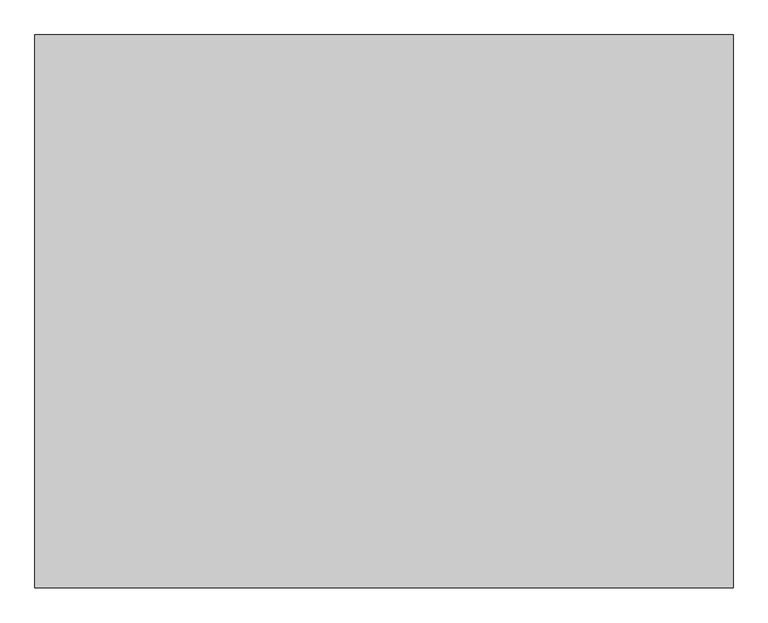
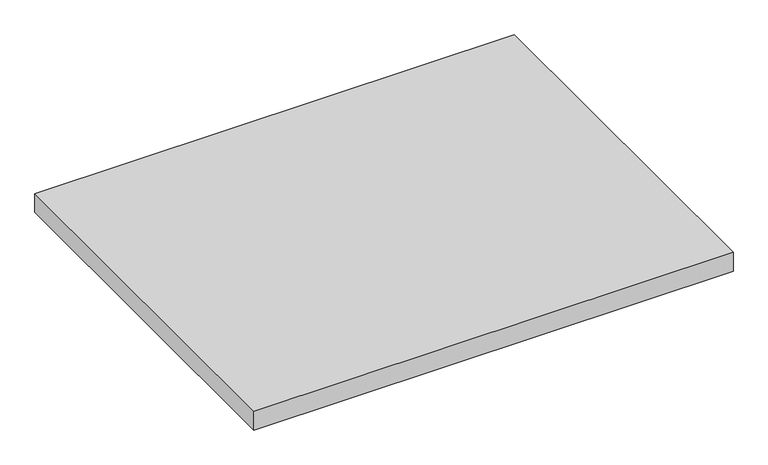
"""IFC4 building model written with IfcOpenShell, lengths in millimetres: proxy geometry, Modèles génériques 4 : Modèles génériques 4."""

from ifc_helpers import new_model, si_unit, frame, origin, place, context, project, spatial, polyline, outline, extrude, source, transform, mapped, element, save


def generic_models_fbd42da7(model_context):
    return source(origin(), model_context, "Body", "SweptSolid", [
        extrude(outline(polyline([(-7128.7993027, 3603.736413), (-7128.7993027, 1703.736413), (-9528.7993027, 1703.736413), (-9528.7993027, 3603.736413), (-7128.7993027, 3603.736413)])), frame((0.0, 0.0, -500.0), z_axis=(0.0, 0.0, 1.0), x_axis=(1.0, 0.0, 0.0)), (0.0, 0.0, 1.0), 100.0),
    ])


if __name__ == "__main__":
    model = new_model("IFC4")
    model_context = context("Model", 3, world=origin())
    ifc_project = project(units=[si_unit("LENGTHUNIT", "METRE", prefix="MILLI")], contexts=[model_context])
    site = spatial("IfcSite", under=ifc_project)
    building = spatial("IfcBuilding", under=site)
    placement = place(None, origin())
    generic_models_shape = generic_models_fbd42da7(model_context)
    element("IfcBuildingElementProxy", 1, Name="Modèles génériques 4 : Modèles génériques 4", ObjectType="Modèles génériques 4 : Modèles génériques 4", at=placement, inside=building, context=model_context, shape_type="MappedRepresentation", body=[
        mapped(generic_models_shape, transform((0.0, 0.0, 0.0), x_axis=(1.0, 0.0, 0.0), y_axis=(0.0, 1.0, 0.0), z_axis=(0.0, 0.0, 1.0))),
    ])
    save(model, "model.ifc")
